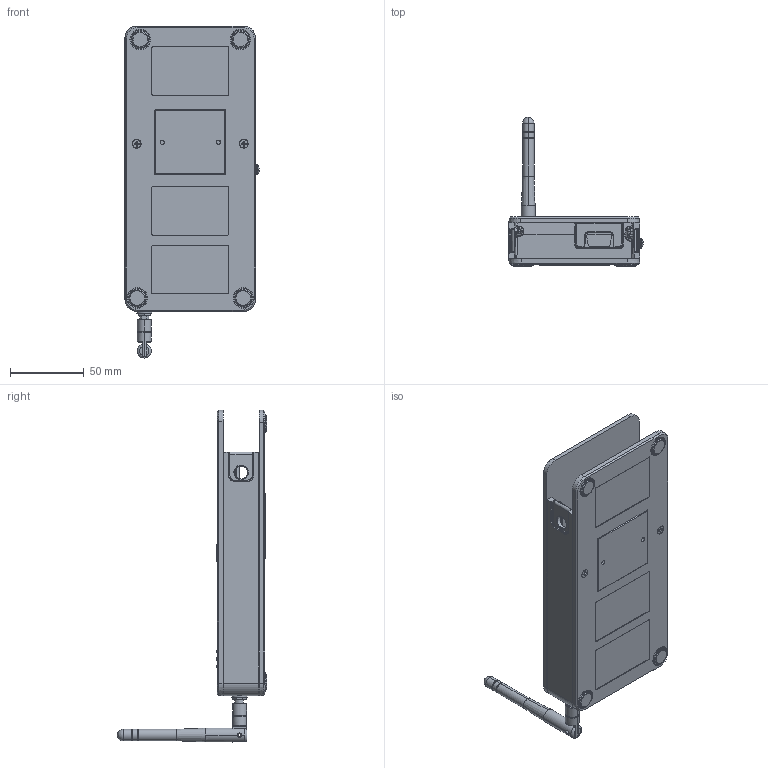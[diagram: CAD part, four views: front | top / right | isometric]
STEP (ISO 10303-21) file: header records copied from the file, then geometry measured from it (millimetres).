
FILE_DESCRIPTION((''),'2;1');
FILE_NAME('CU_CDAQ-9191','2011-06-06T',('dkendric'),(''),'PRO/ENGINEER BY PARAMETRIC TECHNOLOGY CORPORATION, 2010230','PRO/ENGINEER BY PARAMETRIC TECHNOLOGY CORPORATION, 2010230','');
FILE_SCHEMA(('CONFIG_CONTROL_DESIGN'));
Products named in the file (1): CU_CDAQ-9191
Bounding box: 91.06 x 101.42 x 225.49 mm (x, y, z)
Volume: 152015 mm3; surface area: 115355.4 mm2
Topology: 9 solids, 9 shells, 2616 faces, 6655 edges, 4125 vertices
Faces by surface type: plane 1434, cylinder 637, bspline 176, cone 135, torus 122, extrusion 91, sphere 21
Entity records: 92425 total; most frequent: CARTESIAN_POINT 30934, ORIENTED_EDGE 13182, DIRECTION 11809, EDGE_CURVE 6591, VECTOR 4517, LINE 4426, VERTEX_POINT 4182, AXIS2_PLACEMENT_3D 3646
